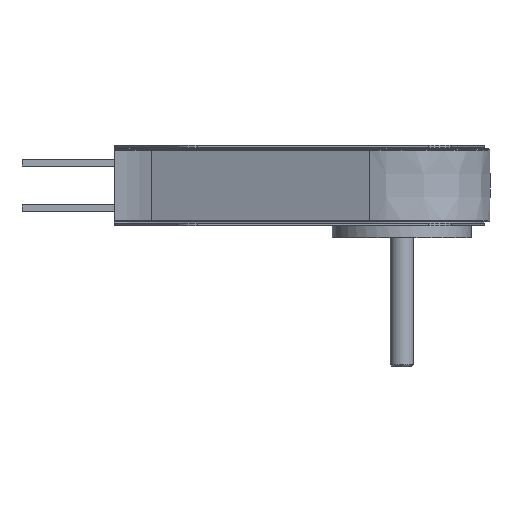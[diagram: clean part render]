
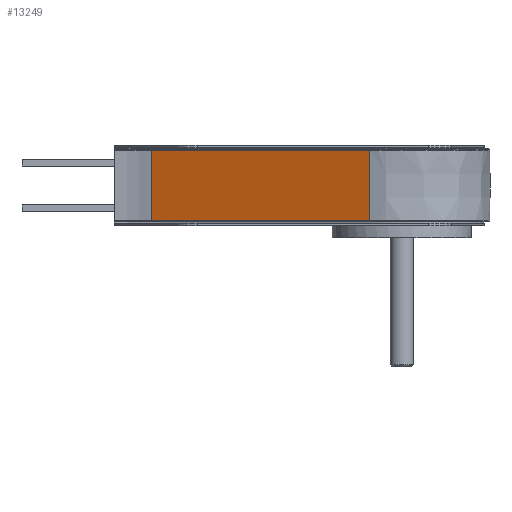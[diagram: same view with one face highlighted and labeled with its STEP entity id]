
A CAD part, front view. The second image highlights one B-rep face of the part: STEP entity #13249.
In plain terms, the highlighted planar face has unit normal (-0.359, -0.933, 0).
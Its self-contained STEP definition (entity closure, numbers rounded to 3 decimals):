
#8 = VECTOR ( 'NONE', #8026, 1000. ) ;
#630 = VECTOR ( 'NONE', #18965, 1000. ) ;
#981 = ORIENTED_EDGE ( 'NONE', *, *, #10948, .T. ) ;
#1390 = VERTEX_POINT ( 'NONE', #9603 ) ;
#1982 = DIRECTION ( 'NONE',  ( -0.933, 0.359, 0. ) ) ;
#2705 = CARTESIAN_POINT ( 'NONE',  ( -216.305, 1.318, 0. ) ) ;
#4399 = VECTOR ( 'NONE', #1982, 1000. ) ;
#4610 = DIRECTION ( 'NONE',  ( -0.359, -0.933, 0. ) ) ;
#4735 = EDGE_CURVE ( 'NONE', #8914, #18960, #12975, .T. ) ;
#5295 = DIRECTION ( 'NONE',  ( -0.933, 0.359, 0. ) ) ;
#6936 = LINE ( 'NONE', #15088, #9956 ) ;
#8026 = DIRECTION ( 'NONE',  ( 0., 0., 1. ) ) ;
#8914 = VERTEX_POINT ( 'NONE', #11177 ) ;
#9603 = CARTESIAN_POINT ( 'NONE',  ( -216.305, 1.318, -30.293 ) ) ;
#9848 = CARTESIAN_POINT ( 'NONE',  ( -27.498, -71.399, 30.293 ) ) ;
#9956 = VECTOR ( 'NONE', #5295, 1000. ) ;
#10324 = ORIENTED_EDGE ( 'NONE', *, *, #4735, .T. ) ;
#10482 = ORIENTED_EDGE ( 'NONE', *, *, #13761, .F. ) ;
#10864 = ORIENTED_EDGE ( 'NONE', *, *, #17377, .F. ) ;
#10948 = EDGE_CURVE ( 'NONE', #12450, #8914, #19477, .T. ) ;
#11177 = CARTESIAN_POINT ( 'NONE',  ( -27.498, -71.399, 30.293 ) ) ;
#11851 = EDGE_LOOP ( 'NONE', ( #981, #10324, #10482, #10864 ) ) ;
#12450 = VERTEX_POINT ( 'NONE', #20331 ) ;
#12975 = LINE ( 'NONE', #9848, #4399 ) ;
#13017 = CARTESIAN_POINT ( 'NONE',  ( -216.305, 1.318, 30.293 ) ) ;
#13249 = ADVANCED_FACE ( 'NONE', ( #19862 ), #18650, .T. ) ;
#13761 = EDGE_CURVE ( 'NONE', #1390, #18960, #18337, .T. ) ;
#15088 = CARTESIAN_POINT ( 'NONE',  ( -27.498, -71.399, -30.293 ) ) ;
#16213 = CARTESIAN_POINT ( 'NONE',  ( -27.498, -71.399, 0. ) ) ;
#17114 = AXIS2_PLACEMENT_3D ( 'NONE', #20480, #4610, #20618 ) ;
#17377 = EDGE_CURVE ( 'NONE', #12450, #1390, #6936, .T. ) ;
#18337 = LINE ( 'NONE', #2705, #630 ) ;
#18650 = PLANE ( 'NONE',  #17114 ) ;
#18960 = VERTEX_POINT ( 'NONE', #13017 ) ;
#18965 = DIRECTION ( 'NONE',  ( 0., 0., 1. ) ) ;
#19477 = LINE ( 'NONE', #16213, #8 ) ;
#19862 = FACE_OUTER_BOUND ( 'NONE', #11851, .T. ) ;
#20331 = CARTESIAN_POINT ( 'NONE',  ( -27.498, -71.399, -30.293 ) ) ;
#20480 = CARTESIAN_POINT ( 'NONE',  ( -27.498, -71.399, 0. ) ) ;
#20618 = DIRECTION ( 'NONE',  ( 0.933, -0.359, 0. ) ) ;
